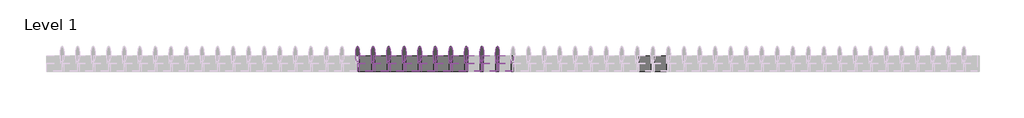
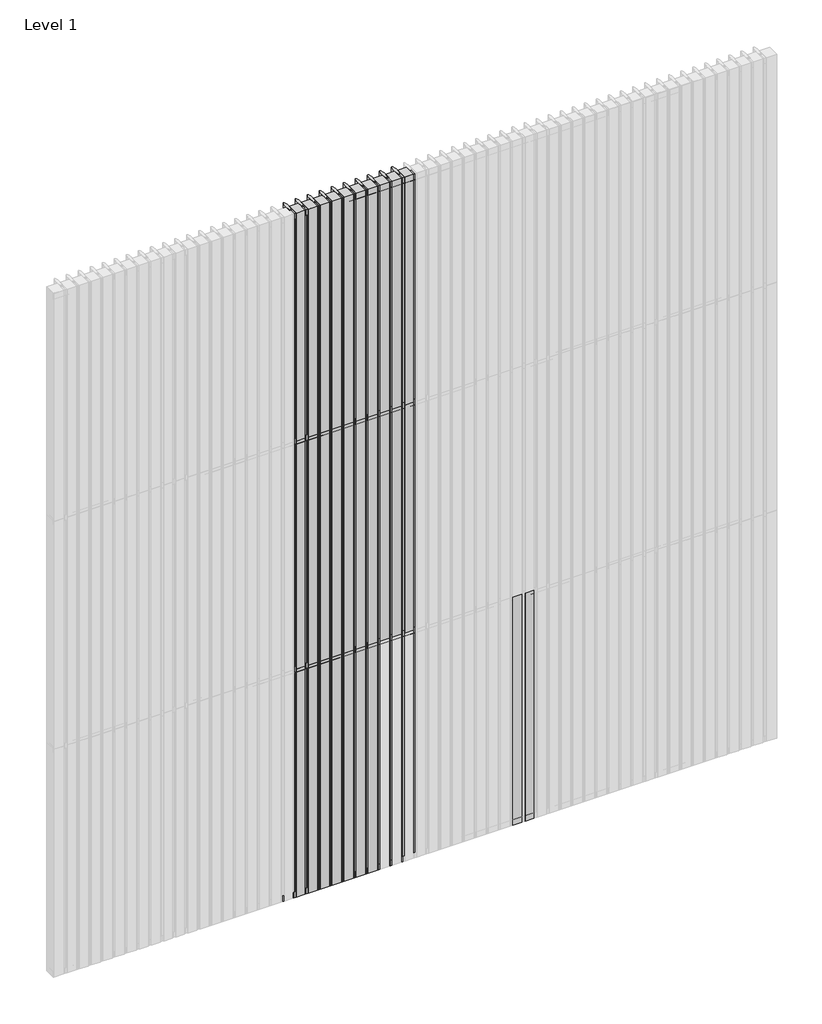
# One storey, part 3 of 6: 70 members, 59 plates.
"""IFC4 building model written with IfcOpenShell, lengths in millimetres."""

from ifc_helpers import new_model, si_unit, origin, place, context, project, spatial, transform, mapped, element, save
from components import rectangular_mullion_31e9810d, rectangular_mullion_cddbc660, rectangular_mullion_a3e25429, rectangular_mullion_ae434dd9, empty_system_panel_empty_de76a839, empty_system_panel_empty_5411477d, empty_system_panel_empty_c50988b4

model = new_model("IFC4")

# Units and contexts
model_context = context("Model", 3, world=origin())
ifc_project = project(units=[si_unit("LENGTHUNIT", "METRE", prefix="MILLI")], contexts=[model_context])

# Site, building, storey
site = spatial("IfcSite", under=ifc_project)
building = spatial("IfcBuilding", under=site)
storey = spatial("IfcBuildingStorey", under=building, Name="Level 1", Elevation=0.0)

# Members
placement = place(None, origin())
rectangular_mullion_shape = rectangular_mullion_31e9810d(model_context)
element("IfcMember", 1, ObjectType="Rectangular Mullion : RSen_21_CWM_blade - 100 ellips - 0°_gen_duco projects", at=placement, inside=storey, context=model_context, shape_type="MappedRepresentation", body=[
    mapped(rectangular_mullion_shape, transform((2900.0, 3000.0, 0.0), x_axis=(-1.0, 0.0, 0.0), y_axis=(0.0, 1.0, 0.0), z_axis=(0.0, 0.0, -1.0))),
])
element("IfcMember", 2, ObjectType="Rectangular Mullion : RSen_21_CWM_blade - 100 ellips - 0°_gen_duco projects", at=placement, inside=storey, context=model_context, shape_type="MappedRepresentation", body=[
    mapped(rectangular_mullion_shape, transform((2800.0, 3000.0, 0.0), x_axis=(-1.0, 0.0, 0.0), y_axis=(0.0, 1.0, 0.0), z_axis=(0.0, 0.0, -1.0))),
])
element("IfcMember", 3, ObjectType="Rectangular Mullion : RSen_21_CWM_blade - 100 ellips - 0°_gen_duco projects", at=placement, inside=storey, context=model_context, shape_type="MappedRepresentation", body=[
    mapped(rectangular_mullion_shape, transform((2700.0, 3000.0, 0.0), x_axis=(-1.0, 0.0, 0.0), y_axis=(0.0, 1.0, 0.0), z_axis=(0.0, 0.0, -1.0))),
])
element("IfcMember", 4, ObjectType="Rectangular Mullion : RSen_21_CWM_blade - 100 ellips - 0°_gen_duco projects", at=placement, inside=storey, context=model_context, shape_type="MappedRepresentation", body=[
    mapped(rectangular_mullion_shape, transform((2600.0, 3000.0, 0.0), x_axis=(-1.0, 0.0, 0.0), y_axis=(0.0, 1.0, 0.0), z_axis=(0.0, 0.0, -1.0))),
])
element("IfcMember", 5, ObjectType="Rectangular Mullion : RSen_21_CWM_blade - 100 ellips - 0°_gen_duco projects", at=placement, inside=storey, context=model_context, shape_type="MappedRepresentation", body=[
    mapped(rectangular_mullion_shape, transform((2500.0, 3000.0, 0.0), x_axis=(-1.0, 0.0, 0.0), y_axis=(0.0, 1.0, 0.0), z_axis=(0.0, 0.0, -1.0))),
])
element("IfcMember", 6, ObjectType="Rectangular Mullion : RSen_21_CWM_blade - 100 ellips - 0°_gen_duco projects", at=placement, inside=storey, context=model_context, shape_type="MappedRepresentation", body=[
    mapped(rectangular_mullion_shape, transform((2400.0, 3000.0, 0.0), x_axis=(-1.0, 0.0, 0.0), y_axis=(0.0, 1.0, 0.0), z_axis=(0.0, 0.0, -1.0))),
])
element("IfcMember", 7, ObjectType="Rectangular Mullion : RSen_21_CWM_blade - 100 ellips - 0°_gen_duco projects", at=placement, inside=storey, context=model_context, shape_type="MappedRepresentation", body=[
    mapped(rectangular_mullion_shape, transform((2300.0, 3000.0, 0.0), x_axis=(-1.0, 0.0, 0.0), y_axis=(0.0, 1.0, 0.0), z_axis=(0.0, 0.0, -1.0))),
])
element("IfcMember", 8, ObjectType="Rectangular Mullion : RSen_21_CWM_blade - 100 ellips - 0°_gen_duco projects", at=placement, inside=storey, context=model_context, shape_type="MappedRepresentation", body=[
    mapped(rectangular_mullion_shape, transform((2200.0, 3000.0, 0.0), x_axis=(-1.0, 0.0, 0.0), y_axis=(0.0, 1.0, 0.0), z_axis=(0.0, 0.0, -1.0))),
])
element("IfcMember", 9, ObjectType="Rectangular Mullion : RSen_21_CWM_blade - 100 ellips - 0°_gen_duco projects", at=placement, inside=storey, context=model_context, shape_type="MappedRepresentation", body=[
    mapped(rectangular_mullion_shape, transform((2100.0, 3000.0, 0.0), x_axis=(-1.0, 0.0, 0.0), y_axis=(0.0, 1.0, 0.0), z_axis=(0.0, 0.0, -1.0))),
])
element("IfcMember", 10, ObjectType="Rectangular Mullion : RSen_21_CWM_blade - 100 ellips - 0°_gen_duco projects", at=placement, inside=storey, context=model_context, shape_type="MappedRepresentation", body=[
    mapped(rectangular_mullion_shape, transform((2000.0, 3000.0, 0.0), x_axis=(-1.0, 0.0, 0.0), y_axis=(0.0, 1.0, 0.0), z_axis=(0.0, 0.0, -1.0))),
])
element("IfcMember", 11, ObjectType="Rectangular Mullion : RSen_21_CWM_blade - 100 ellips - 0°_gen_duco projects", at=placement, inside=storey, context=model_context, shape_type="MappedRepresentation", body=[
    mapped(rectangular_mullion_shape, transform((2900.0, 3000.0, 2000.0), x_axis=(-1.0, 0.0, 0.0), y_axis=(0.0, 1.0, 0.0), z_axis=(0.0, 0.0, -1.0))),
])
element("IfcMember", 12, ObjectType="Rectangular Mullion : RSen_21_CWM_blade - 100 ellips - 0°_gen_duco projects", at=placement, inside=storey, context=model_context, shape_type="MappedRepresentation", body=[
    mapped(rectangular_mullion_shape, transform((2800.0, 3000.0, 2000.0), x_axis=(-1.0, 0.0, 0.0), y_axis=(0.0, 1.0, 0.0), z_axis=(0.0, 0.0, -1.0))),
])
element("IfcMember", 13, ObjectType="Rectangular Mullion : RSen_21_CWM_blade - 100 ellips - 0°_gen_duco projects", at=placement, inside=storey, context=model_context, shape_type="MappedRepresentation", body=[
    mapped(rectangular_mullion_shape, transform((2700.0, 3000.0, 2000.0), x_axis=(-1.0, 0.0, 0.0), y_axis=(0.0, 1.0, 0.0), z_axis=(0.0, 0.0, -1.0))),
])
element("IfcMember", 14, ObjectType="Rectangular Mullion : RSen_21_CWM_blade - 100 ellips - 0°_gen_duco projects", at=placement, inside=storey, context=model_context, shape_type="MappedRepresentation", body=[
    mapped(rectangular_mullion_shape, transform((2600.0, 3000.0, 2000.0), x_axis=(-1.0, 0.0, 0.0), y_axis=(0.0, 1.0, 0.0), z_axis=(0.0, 0.0, -1.0))),
])
element("IfcMember", 15, ObjectType="Rectangular Mullion : RSen_21_CWM_blade - 100 ellips - 0°_gen_duco projects", at=placement, inside=storey, context=model_context, shape_type="MappedRepresentation", body=[
    mapped(rectangular_mullion_shape, transform((2500.0, 3000.0, 2000.0), x_axis=(-1.0, 0.0, 0.0), y_axis=(0.0, 1.0, 0.0), z_axis=(0.0, 0.0, -1.0))),
])
element("IfcMember", 16, ObjectType="Rectangular Mullion : RSen_21_CWM_blade - 100 ellips - 0°_gen_duco projects", at=placement, inside=storey, context=model_context, shape_type="MappedRepresentation", body=[
    mapped(rectangular_mullion_shape, transform((2400.0, 3000.0, 2000.0), x_axis=(-1.0, 0.0, 0.0), y_axis=(0.0, 1.0, 0.0), z_axis=(0.0, 0.0, -1.0))),
])
element("IfcMember", 17, ObjectType="Rectangular Mullion : RSen_21_CWM_blade - 100 ellips - 0°_gen_duco projects", at=placement, inside=storey, context=model_context, shape_type="MappedRepresentation", body=[
    mapped(rectangular_mullion_shape, transform((2300.0, 3000.0, 2000.0), x_axis=(-1.0, 0.0, 0.0), y_axis=(0.0, 1.0, 0.0), z_axis=(0.0, 0.0, -1.0))),
])
element("IfcMember", 18, ObjectType="Rectangular Mullion : RSen_21_CWM_blade - 100 ellips - 0°_gen_duco projects", at=placement, inside=storey, context=model_context, shape_type="MappedRepresentation", body=[
    mapped(rectangular_mullion_shape, transform((2200.0, 3000.0, 2000.0), x_axis=(-1.0, 0.0, 0.0), y_axis=(0.0, 1.0, 0.0), z_axis=(0.0, 0.0, -1.0))),
])
element("IfcMember", 19, ObjectType="Rectangular Mullion : RSen_21_CWM_blade - 100 ellips - 0°_gen_duco projects", at=placement, inside=storey, context=model_context, shape_type="MappedRepresentation", body=[
    mapped(rectangular_mullion_shape, transform((2100.0, 3000.0, 2000.0), x_axis=(-1.0, 0.0, 0.0), y_axis=(0.0, 1.0, 0.0), z_axis=(0.0, 0.0, -1.0))),
])
element("IfcMember", 20, ObjectType="Rectangular Mullion : RSen_21_CWM_blade - 100 ellips - 0°_gen_duco projects", at=placement, inside=storey, context=model_context, shape_type="MappedRepresentation", body=[
    mapped(rectangular_mullion_shape, transform((2000.0, 3000.0, 2000.0), x_axis=(-1.0, 0.0, 0.0), y_axis=(0.0, 1.0, 0.0), z_axis=(0.0, 0.0, -1.0))),
])
element("IfcMember", 21, ObjectType="Rectangular Mullion : RSen_21_CWM_blade - 100 ellips - 0°_gen_duco projects", at=placement, inside=storey, context=model_context, shape_type="MappedRepresentation", body=[
    mapped(rectangular_mullion_shape, transform((2900.0, 3000.0, 4000.0), x_axis=(-1.0, 0.0, 0.0), y_axis=(0.0, 1.0, 0.0), z_axis=(0.0, 0.0, -1.0))),
])
element("IfcMember", 22, ObjectType="Rectangular Mullion : RSen_21_CWM_blade - 100 ellips - 0°_gen_duco projects", at=placement, inside=storey, context=model_context, shape_type="MappedRepresentation", body=[
    mapped(rectangular_mullion_shape, transform((2800.0, 3000.0, 4000.0), x_axis=(-1.0, 0.0, 0.0), y_axis=(0.0, 1.0, 0.0), z_axis=(0.0, 0.0, -1.0))),
])
element("IfcMember", 23, ObjectType="Rectangular Mullion : RSen_21_CWM_blade - 100 ellips - 0°_gen_duco projects", at=placement, inside=storey, context=model_context, shape_type="MappedRepresentation", body=[
    mapped(rectangular_mullion_shape, transform((2700.0, 3000.0, 4000.0), x_axis=(-1.0, 0.0, 0.0), y_axis=(0.0, 1.0, 0.0), z_axis=(0.0, 0.0, -1.0))),
])
element("IfcMember", 24, ObjectType="Rectangular Mullion : RSen_21_CWM_blade - 100 ellips - 0°_gen_duco projects", at=placement, inside=storey, context=model_context, shape_type="MappedRepresentation", body=[
    mapped(rectangular_mullion_shape, transform((2600.0, 3000.0, 4000.0), x_axis=(-1.0, 0.0, 0.0), y_axis=(0.0, 1.0, 0.0), z_axis=(0.0, 0.0, -1.0))),
])
element("IfcMember", 25, ObjectType="Rectangular Mullion : RSen_21_CWM_blade - 100 ellips - 0°_gen_duco projects", at=placement, inside=storey, context=model_context, shape_type="MappedRepresentation", body=[
    mapped(rectangular_mullion_shape, transform((2500.0, 3000.0, 4000.0), x_axis=(-1.0, 0.0, 0.0), y_axis=(0.0, 1.0, 0.0), z_axis=(0.0, 0.0, -1.0))),
])
element("IfcMember", 26, ObjectType="Rectangular Mullion : RSen_21_CWM_blade - 100 ellips - 0°_gen_duco projects", at=placement, inside=storey, context=model_context, shape_type="MappedRepresentation", body=[
    mapped(rectangular_mullion_shape, transform((2400.0, 3000.0, 4000.0), x_axis=(-1.0, 0.0, 0.0), y_axis=(0.0, 1.0, 0.0), z_axis=(0.0, 0.0, -1.0))),
])
element("IfcMember", 27, ObjectType="Rectangular Mullion : RSen_21_CWM_blade - 100 ellips - 0°_gen_duco projects", at=placement, inside=storey, context=model_context, shape_type="MappedRepresentation", body=[
    mapped(rectangular_mullion_shape, transform((2300.0, 3000.0, 4000.0), x_axis=(-1.0, 0.0, 0.0), y_axis=(0.0, 1.0, 0.0), z_axis=(0.0, 0.0, -1.0))),
])
element("IfcMember", 28, ObjectType="Rectangular Mullion : RSen_21_CWM_blade - 100 ellips - 0°_gen_duco projects", at=placement, inside=storey, context=model_context, shape_type="MappedRepresentation", body=[
    mapped(rectangular_mullion_shape, transform((2200.0, 3000.0, 4000.0), x_axis=(-1.0, 0.0, 0.0), y_axis=(0.0, 1.0, 0.0), z_axis=(0.0, 0.0, -1.0))),
])
element("IfcMember", 29, ObjectType="Rectangular Mullion : RSen_21_CWM_blade - 100 ellips - 0°_gen_duco projects", at=placement, inside=storey, context=model_context, shape_type="MappedRepresentation", body=[
    mapped(rectangular_mullion_shape, transform((2100.0, 3000.0, 4000.0), x_axis=(-1.0, 0.0, 0.0), y_axis=(0.0, 1.0, 0.0), z_axis=(0.0, 0.0, -1.0))),
])
element("IfcMember", 30, ObjectType="Rectangular Mullion : RSen_21_CWM_blade - 100 ellips - 0°_gen_duco projects", at=placement, inside=storey, context=model_context, shape_type="MappedRepresentation", body=[
    mapped(rectangular_mullion_shape, transform((2000.0, 3000.0, 4000.0), x_axis=(-1.0, 0.0, 0.0), y_axis=(0.0, 1.0, 0.0), z_axis=(0.0, 0.0, -1.0))),
])
rectangular_mullion_2_shape = rectangular_mullion_cddbc660(model_context)
element("IfcMember", 31, ObjectType="Rectangular Mullion : RSen_21_CWM_support profile 50x50 - left_gen_duco projects", at=placement, inside=storey, context=model_context, shape_type="MappedRepresentation", body=[
    mapped(rectangular_mullion_2_shape, transform((2900.0, 3000.0, 6000.0), x_axis=(0.0, 0.0, 1.0), y_axis=(0.0, 1.0, 0.0), z_axis=(-1.0, 0.0, 0.0))),
])
element("IfcMember", 32, ObjectType="Rectangular Mullion : RSen_21_CWM_support profile 50x50 - left_gen_duco projects", at=placement, inside=storey, context=model_context, shape_type="MappedRepresentation", body=[
    mapped(rectangular_mullion_2_shape, transform((2800.0, 3000.0, 6000.0), x_axis=(0.0, 0.0, 1.0), y_axis=(0.0, 1.0, 0.0), z_axis=(-1.0, 0.0, 0.0))),
])
element("IfcMember", 33, ObjectType="Rectangular Mullion : RSen_21_CWM_support profile 50x50 - left_gen_duco projects", at=placement, inside=storey, context=model_context, shape_type="MappedRepresentation", body=[
    mapped(rectangular_mullion_2_shape, transform((2700.0, 3000.0, 6000.0), x_axis=(0.0, 0.0, 1.0), y_axis=(0.0, 1.0, 0.0), z_axis=(-1.0, 0.0, 0.0))),
])
element("IfcMember", 34, ObjectType="Rectangular Mullion : RSen_21_CWM_support profile 50x50 - left_gen_duco projects", at=placement, inside=storey, context=model_context, shape_type="MappedRepresentation", body=[
    mapped(rectangular_mullion_2_shape, transform((2600.0, 3000.0, 6000.0), x_axis=(0.0, 0.0, 1.0), y_axis=(0.0, 1.0, 0.0), z_axis=(-1.0, 0.0, 0.0))),
])
element("IfcMember", 35, ObjectType="Rectangular Mullion : RSen_21_CWM_support profile 50x50 - left_gen_duco projects", at=placement, inside=storey, context=model_context, shape_type="MappedRepresentation", body=[
    mapped(rectangular_mullion_2_shape, transform((2500.0, 3000.0, 6000.0), x_axis=(0.0, 0.0, 1.0), y_axis=(0.0, 1.0, 0.0), z_axis=(-1.0, 0.0, 0.0))),
])
element("IfcMember", 36, ObjectType="Rectangular Mullion : RSen_21_CWM_support profile 50x50 - left_gen_duco projects", at=placement, inside=storey, context=model_context, shape_type="MappedRepresentation", body=[
    mapped(rectangular_mullion_2_shape, transform((2400.0, 3000.0, 6000.0), x_axis=(0.0, 0.0, 1.0), y_axis=(0.0, 1.0, 0.0), z_axis=(-1.0, 0.0, 0.0))),
])
element("IfcMember", 37, ObjectType="Rectangular Mullion : RSen_21_CWM_support profile 50x50 - left_gen_duco projects", at=placement, inside=storey, context=model_context, shape_type="MappedRepresentation", body=[
    mapped(rectangular_mullion_2_shape, transform((2300.0, 3000.0, 6000.0), x_axis=(0.0, 0.0, 1.0), y_axis=(0.0, 1.0, 0.0), z_axis=(-1.0, 0.0, 0.0))),
])
element("IfcMember", 38, ObjectType="Rectangular Mullion : RSen_21_CWM_support profile 50x50 - left_gen_duco projects", at=placement, inside=storey, context=model_context, shape_type="MappedRepresentation", body=[
    mapped(rectangular_mullion_2_shape, transform((2200.0, 3000.0, 6000.0), x_axis=(0.0, 0.0, 1.0), y_axis=(0.0, 1.0, 0.0), z_axis=(-1.0, 0.0, 0.0))),
])
element("IfcMember", 39, ObjectType="Rectangular Mullion : RSen_21_CWM_support profile 50x50 - left_gen_duco projects", at=placement, inside=storey, context=model_context, shape_type="MappedRepresentation", body=[
    mapped(rectangular_mullion_2_shape, transform((2100.0, 3000.0, 6000.0), x_axis=(0.0, 0.0, 1.0), y_axis=(0.0, 1.0, 0.0), z_axis=(-1.0, 0.0, 0.0))),
])
element("IfcMember", 40, ObjectType="Rectangular Mullion : RSen_21_CWM_support profile 50x50 - left_gen_duco projects", at=placement, inside=storey, context=model_context, shape_type="MappedRepresentation", body=[
    mapped(rectangular_mullion_2_shape, transform((2000.0, 3000.0, 6000.0), x_axis=(0.0, 0.0, 1.0), y_axis=(0.0, 1.0, 0.0), z_axis=(-1.0, 0.0, 0.0))),
])
rectangular_mullion_3_shape = rectangular_mullion_a3e25429(model_context)
element("IfcMember", 41, ObjectType="Rectangular Mullion : RSen_21_CWM_support profile 50x50 - right_gen_duco projects", at=placement, inside=storey, context=model_context, shape_type="MappedRepresentation", body=[
    mapped(rectangular_mullion_3_shape, transform((2900.0, 3000.0, 0.0), x_axis=(0.0, 0.0, -1.0), y_axis=(0.0, 1.0, 0.0), z_axis=(1.0, 0.0, 0.0))),
])
element("IfcMember", 42, ObjectType="Rectangular Mullion : RSen_21_CWM_support profile 50x50 - right_gen_duco projects", at=placement, inside=storey, context=model_context, shape_type="MappedRepresentation", body=[
    mapped(rectangular_mullion_3_shape, transform((2800.0, 3000.0, 0.0), x_axis=(0.0, 0.0, -1.0), y_axis=(0.0, 1.0, 0.0), z_axis=(1.0, 0.0, 0.0))),
])
element("IfcMember", 43, ObjectType="Rectangular Mullion : RSen_21_CWM_support profile 50x50 - right_gen_duco projects", at=placement, inside=storey, context=model_context, shape_type="MappedRepresentation", body=[
    mapped(rectangular_mullion_3_shape, transform((2700.0, 3000.0, 0.0), x_axis=(0.0, 0.0, -1.0), y_axis=(0.0, 1.0, 0.0), z_axis=(1.0, 0.0, 0.0))),
])
element("IfcMember", 44, ObjectType="Rectangular Mullion : RSen_21_CWM_support profile 50x50 - right_gen_duco projects", at=placement, inside=storey, context=model_context, shape_type="MappedRepresentation", body=[
    mapped(rectangular_mullion_3_shape, transform((2600.0, 3000.0, 0.0), x_axis=(0.0, 0.0, -1.0), y_axis=(0.0, 1.0, 0.0), z_axis=(1.0, 0.0, 0.0))),
])
element("IfcMember", 45, ObjectType="Rectangular Mullion : RSen_21_CWM_support profile 50x50 - right_gen_duco projects", at=placement, inside=storey, context=model_context, shape_type="MappedRepresentation", body=[
    mapped(rectangular_mullion_3_shape, transform((2500.0, 3000.0, 0.0), x_axis=(0.0, 0.0, -1.0), y_axis=(0.0, 1.0, 0.0), z_axis=(1.0, 0.0, 0.0))),
])
element("IfcMember", 46, ObjectType="Rectangular Mullion : RSen_21_CWM_support profile 50x50 - right_gen_duco projects", at=placement, inside=storey, context=model_context, shape_type="MappedRepresentation", body=[
    mapped(rectangular_mullion_3_shape, transform((2400.0, 3000.0, 0.0), x_axis=(0.0, 0.0, -1.0), y_axis=(0.0, 1.0, 0.0), z_axis=(1.0, 0.0, 0.0))),
])
element("IfcMember", 47, ObjectType="Rectangular Mullion : RSen_21_CWM_support profile 50x50 - right_gen_duco projects", at=placement, inside=storey, context=model_context, shape_type="MappedRepresentation", body=[
    mapped(rectangular_mullion_3_shape, transform((2300.0, 3000.0, 0.0), x_axis=(0.0, 0.0, -1.0), y_axis=(0.0, 1.0, 0.0), z_axis=(1.0, 0.0, 0.0))),
])
element("IfcMember", 48, ObjectType="Rectangular Mullion : RSen_21_CWM_support profile 50x50 - right_gen_duco projects", at=placement, inside=storey, context=model_context, shape_type="MappedRepresentation", body=[
    mapped(rectangular_mullion_3_shape, transform((2200.0, 3000.0, 0.0), x_axis=(0.0, 0.0, -1.0), y_axis=(0.0, 1.0, 0.0), z_axis=(1.0, 0.0, 0.0))),
])
element("IfcMember", 49, ObjectType="Rectangular Mullion : RSen_21_CWM_support profile 50x50 - right_gen_duco projects", at=placement, inside=storey, context=model_context, shape_type="MappedRepresentation", body=[
    mapped(rectangular_mullion_3_shape, transform((2100.0, 3000.0, 0.0), x_axis=(0.0, 0.0, -1.0), y_axis=(0.0, 1.0, 0.0), z_axis=(1.0, 0.0, 0.0))),
])
element("IfcMember", 50, ObjectType="Rectangular Mullion : RSen_21_CWM_support profile 50x50 - right_gen_duco projects", at=placement, inside=storey, context=model_context, shape_type="MappedRepresentation", body=[
    mapped(rectangular_mullion_3_shape, transform((2000.0, 3000.0, 0.0), x_axis=(0.0, 0.0, -1.0), y_axis=(0.0, 1.0, 0.0), z_axis=(1.0, 0.0, 0.0))),
])
rectangular_mullion_4_shape = rectangular_mullion_ae434dd9(model_context)
element("IfcMember", 51, ObjectType="Rectangular Mullion : RSen_21_CWM_support profile 50x50_gen_duco projects", at=placement, inside=storey, context=model_context, shape_type="MappedRepresentation", body=[
    mapped(rectangular_mullion_4_shape, transform((2900.0, 3000.0, 2000.0), x_axis=(0.0, 0.0, 1.0), y_axis=(0.0, 1.0, 0.0), z_axis=(-1.0, 0.0, 0.0))),
])
element("IfcMember", 52, ObjectType="Rectangular Mullion : RSen_21_CWM_support profile 50x50_gen_duco projects", at=placement, inside=storey, context=model_context, shape_type="MappedRepresentation", body=[
    mapped(rectangular_mullion_4_shape, transform((2800.0, 3000.0, 2000.0), x_axis=(0.0, 0.0, 1.0), y_axis=(0.0, 1.0, 0.0), z_axis=(-1.0, 0.0, 0.0))),
])
element("IfcMember", 53, ObjectType="Rectangular Mullion : RSen_21_CWM_support profile 50x50_gen_duco projects", at=placement, inside=storey, context=model_context, shape_type="MappedRepresentation", body=[
    mapped(rectangular_mullion_4_shape, transform((2700.0, 3000.0, 2000.0), x_axis=(0.0, 0.0, 1.0), y_axis=(0.0, 1.0, 0.0), z_axis=(-1.0, 0.0, 0.0))),
])
element("IfcMember", 54, ObjectType="Rectangular Mullion : RSen_21_CWM_support profile 50x50_gen_duco projects", at=placement, inside=storey, context=model_context, shape_type="MappedRepresentation", body=[
    mapped(rectangular_mullion_4_shape, transform((2600.0, 3000.0, 2000.0), x_axis=(0.0, 0.0, 1.0), y_axis=(0.0, 1.0, 0.0), z_axis=(-1.0, 0.0, 0.0))),
])
element("IfcMember", 55, ObjectType="Rectangular Mullion : RSen_21_CWM_support profile 50x50_gen_duco projects", at=placement, inside=storey, context=model_context, shape_type="MappedRepresentation", body=[
    mapped(rectangular_mullion_4_shape, transform((2500.0, 3000.0, 2000.0), x_axis=(0.0, 0.0, 1.0), y_axis=(0.0, 1.0, 0.0), z_axis=(-1.0, 0.0, 0.0))),
])
element("IfcMember", 56, ObjectType="Rectangular Mullion : RSen_21_CWM_support profile 50x50_gen_duco projects", at=placement, inside=storey, context=model_context, shape_type="MappedRepresentation", body=[
    mapped(rectangular_mullion_4_shape, transform((2400.0, 3000.0, 2000.0), x_axis=(0.0, 0.0, 1.0), y_axis=(0.0, 1.0, 0.0), z_axis=(-1.0, 0.0, 0.0))),
])
element("IfcMember", 57, ObjectType="Rectangular Mullion : RSen_21_CWM_support profile 50x50_gen_duco projects", at=placement, inside=storey, context=model_context, shape_type="MappedRepresentation", body=[
    mapped(rectangular_mullion_4_shape, transform((2300.0, 3000.0, 2000.0), x_axis=(0.0, 0.0, 1.0), y_axis=(0.0, 1.0, 0.0), z_axis=(-1.0, 0.0, 0.0))),
])
element("IfcMember", 58, ObjectType="Rectangular Mullion : RSen_21_CWM_support profile 50x50_gen_duco projects", at=placement, inside=storey, context=model_context, shape_type="MappedRepresentation", body=[
    mapped(rectangular_mullion_4_shape, transform((2200.0, 3000.0, 2000.0), x_axis=(0.0, 0.0, 1.0), y_axis=(0.0, 1.0, 0.0), z_axis=(-1.0, 0.0, 0.0))),
])
element("IfcMember", 59, ObjectType="Rectangular Mullion : RSen_21_CWM_support profile 50x50_gen_duco projects", at=placement, inside=storey, context=model_context, shape_type="MappedRepresentation", body=[
    mapped(rectangular_mullion_4_shape, transform((2100.0, 3000.0, 2000.0), x_axis=(0.0, 0.0, 1.0), y_axis=(0.0, 1.0, 0.0), z_axis=(-1.0, 0.0, 0.0))),
])
element("IfcMember", 60, ObjectType="Rectangular Mullion : RSen_21_CWM_support profile 50x50_gen_duco projects", at=placement, inside=storey, context=model_context, shape_type="MappedRepresentation", body=[
    mapped(rectangular_mullion_4_shape, transform((2000.0, 3000.0, 2000.0), x_axis=(0.0, 0.0, 1.0), y_axis=(0.0, 1.0, 0.0), z_axis=(-1.0, 0.0, 0.0))),
])
element("IfcMember", 61, ObjectType="Rectangular Mullion : RSen_21_CWM_support profile 50x50_gen_duco projects", at=placement, inside=storey, context=model_context, shape_type="MappedRepresentation", body=[
    mapped(rectangular_mullion_4_shape, transform((2900.0, 3000.0, 4000.0), x_axis=(0.0, 0.0, 1.0), y_axis=(0.0, 1.0, 0.0), z_axis=(-1.0, 0.0, 0.0))),
])
element("IfcMember", 62, ObjectType="Rectangular Mullion : RSen_21_CWM_support profile 50x50_gen_duco projects", at=placement, inside=storey, context=model_context, shape_type="MappedRepresentation", body=[
    mapped(rectangular_mullion_4_shape, transform((2800.0, 3000.0, 4000.0), x_axis=(0.0, 0.0, 1.0), y_axis=(0.0, 1.0, 0.0), z_axis=(-1.0, 0.0, 0.0))),
])
element("IfcMember", 63, ObjectType="Rectangular Mullion : RSen_21_CWM_support profile 50x50_gen_duco projects", at=placement, inside=storey, context=model_context, shape_type="MappedRepresentation", body=[
    mapped(rectangular_mullion_4_shape, transform((2700.0, 3000.0, 4000.0), x_axis=(0.0, 0.0, 1.0), y_axis=(0.0, 1.0, 0.0), z_axis=(-1.0, 0.0, 0.0))),
])
element("IfcMember", 64, ObjectType="Rectangular Mullion : RSen_21_CWM_support profile 50x50_gen_duco projects", at=placement, inside=storey, context=model_context, shape_type="MappedRepresentation", body=[
    mapped(rectangular_mullion_4_shape, transform((2600.0, 3000.0, 4000.0), x_axis=(0.0, 0.0, 1.0), y_axis=(0.0, 1.0, 0.0), z_axis=(-1.0, 0.0, 0.0))),
])
element("IfcMember", 65, ObjectType="Rectangular Mullion : RSen_21_CWM_support profile 50x50_gen_duco projects", at=placement, inside=storey, context=model_context, shape_type="MappedRepresentation", body=[
    mapped(rectangular_mullion_4_shape, transform((2500.0, 3000.0, 4000.0), x_axis=(0.0, 0.0, 1.0), y_axis=(0.0, 1.0, 0.0), z_axis=(-1.0, 0.0, 0.0))),
])
element("IfcMember", 66, ObjectType="Rectangular Mullion : RSen_21_CWM_support profile 50x50_gen_duco projects", at=placement, inside=storey, context=model_context, shape_type="MappedRepresentation", body=[
    mapped(rectangular_mullion_4_shape, transform((2400.0, 3000.0, 4000.0), x_axis=(0.0, 0.0, 1.0), y_axis=(0.0, 1.0, 0.0), z_axis=(-1.0, 0.0, 0.0))),
])
element("IfcMember", 67, ObjectType="Rectangular Mullion : RSen_21_CWM_support profile 50x50_gen_duco projects", at=placement, inside=storey, context=model_context, shape_type="MappedRepresentation", body=[
    mapped(rectangular_mullion_4_shape, transform((2300.0, 3000.0, 4000.0), x_axis=(0.0, 0.0, 1.0), y_axis=(0.0, 1.0, 0.0), z_axis=(-1.0, 0.0, 0.0))),
])
element("IfcMember", 68, ObjectType="Rectangular Mullion : RSen_21_CWM_support profile 50x50_gen_duco projects", at=placement, inside=storey, context=model_context, shape_type="MappedRepresentation", body=[
    mapped(rectangular_mullion_4_shape, transform((2200.0, 3000.0, 4000.0), x_axis=(0.0, 0.0, 1.0), y_axis=(0.0, 1.0, 0.0), z_axis=(-1.0, 0.0, 0.0))),
])
element("IfcMember", 69, ObjectType="Rectangular Mullion : RSen_21_CWM_support profile 50x50_gen_duco projects", at=placement, inside=storey, context=model_context, shape_type="MappedRepresentation", body=[
    mapped(rectangular_mullion_4_shape, transform((2100.0, 3000.0, 4000.0), x_axis=(0.0, 0.0, 1.0), y_axis=(0.0, 1.0, 0.0), z_axis=(-1.0, 0.0, 0.0))),
])
element("IfcMember", 70, ObjectType="Rectangular Mullion : RSen_21_CWM_support profile 50x50_gen_duco projects", at=placement, inside=storey, context=model_context, shape_type="MappedRepresentation", body=[
    mapped(rectangular_mullion_4_shape, transform((2000.0, 3000.0, 4000.0), x_axis=(0.0, 0.0, 1.0), y_axis=(0.0, 1.0, 0.0), z_axis=(-1.0, 0.0, 0.0))),
])

# Plates
empty_system_panel_empty_shape = empty_system_panel_empty_de76a839(model_context)
element("IfcPlate", 71, ObjectType="Empty System Panel : Empty", at=placement, inside=storey, context=model_context, shape_type="MappedRepresentation", body=[
    mapped(empty_system_panel_empty_shape, transform((3950.0, 3000.0, 0.0), x_axis=(-1.0, 0.0, 0.0), y_axis=(0.0, -1.0, 0.0), z_axis=(0.0, 0.0, 1.0))),
])
element("IfcPlate", 72, ObjectType="Empty System Panel : Empty", at=placement, inside=storey, context=model_context, shape_type="MappedRepresentation", body=[
    mapped(empty_system_panel_empty_shape, transform((3850.0, 3000.0, 0.0), x_axis=(-1.0, 0.0, 0.0), y_axis=(0.0, -1.0, 0.0), z_axis=(0.0, 0.0, 1.0))),
])
element("IfcPlate", 73, ObjectType="Empty System Panel : Empty", at=placement, inside=storey, context=model_context, shape_type="MappedRepresentation", body=[
    mapped(empty_system_panel_empty_shape, transform((2650.0, 3000.0, 0.0), x_axis=(-1.0, 0.0, 0.0), y_axis=(0.0, -1.0, 0.0), z_axis=(0.0, 0.0, 1.0))),
])
element("IfcPlate", 74, ObjectType="Empty System Panel : Empty", at=placement, inside=storey, context=model_context, shape_type="MappedRepresentation", body=[
    mapped(empty_system_panel_empty_shape, transform((2550.0, 3000.0, 0.0), x_axis=(-1.0, 0.0, 0.0), y_axis=(0.0, -1.0, 0.0), z_axis=(0.0, 0.0, 1.0))),
])
element("IfcPlate", 75, ObjectType="Empty System Panel : Empty", at=placement, inside=storey, context=model_context, shape_type="MappedRepresentation", body=[
    mapped(empty_system_panel_empty_shape, transform((2450.0, 3000.0, 0.0), x_axis=(-1.0, 0.0, 0.0), y_axis=(0.0, -1.0, 0.0), z_axis=(0.0, 0.0, 1.0))),
])
element("IfcPlate", 76, ObjectType="Empty System Panel : Empty", at=placement, inside=storey, context=model_context, shape_type="MappedRepresentation", body=[
    mapped(empty_system_panel_empty_shape, transform((2350.0, 3000.0, 0.0), x_axis=(-1.0, 0.0, 0.0), y_axis=(0.0, -1.0, 0.0), z_axis=(0.0, 0.0, 1.0))),
])
element("IfcPlate", 77, ObjectType="Empty System Panel : Empty", at=placement, inside=storey, context=model_context, shape_type="MappedRepresentation", body=[
    mapped(empty_system_panel_empty_shape, transform((2250.0, 3000.0, 0.0), x_axis=(-1.0, 0.0, 0.0), y_axis=(0.0, -1.0, 0.0), z_axis=(0.0, 0.0, 1.0))),
])
element("IfcPlate", 78, ObjectType="Empty System Panel : Empty", at=placement, inside=storey, context=model_context, shape_type="MappedRepresentation", body=[
    mapped(empty_system_panel_empty_shape, transform((2150.0, 3000.0, 0.0), x_axis=(-1.0, 0.0, 0.0), y_axis=(0.0, -1.0, 0.0), z_axis=(0.0, 0.0, 1.0))),
])
element("IfcPlate", 79, ObjectType="Empty System Panel : Empty", at=placement, inside=storey, context=model_context, shape_type="MappedRepresentation", body=[
    mapped(empty_system_panel_empty_shape, transform((2050.0, 3000.0, 0.0), x_axis=(-1.0, 0.0, 0.0), y_axis=(0.0, -1.0, 0.0), z_axis=(0.0, 0.0, 1.0))),
])
element("IfcPlate", 80, ObjectType="Empty System Panel : Empty", at=placement, inside=storey, context=model_context, shape_type="MappedRepresentation", body=[
    mapped(empty_system_panel_empty_shape, transform((2950.0, 3000.0, 2000.0), x_axis=(-1.0, 0.0, 0.0), y_axis=(0.0, -1.0, 0.0), z_axis=(0.0, 0.0, 1.0))),
])
element("IfcPlate", 81, ObjectType="Empty System Panel : Empty", at=placement, inside=storey, context=model_context, shape_type="MappedRepresentation", body=[
    mapped(empty_system_panel_empty_shape, transform((2850.0, 3000.0, 2000.0), x_axis=(-1.0, 0.0, 0.0), y_axis=(0.0, -1.0, 0.0), z_axis=(0.0, 0.0, 1.0))),
])
element("IfcPlate", 82, ObjectType="Empty System Panel : Empty", at=placement, inside=storey, context=model_context, shape_type="MappedRepresentation", body=[
    mapped(empty_system_panel_empty_shape, transform((2750.0, 3000.0, 2000.0), x_axis=(-1.0, 0.0, 0.0), y_axis=(0.0, -1.0, 0.0), z_axis=(0.0, 0.0, 1.0))),
])
element("IfcPlate", 83, ObjectType="Empty System Panel : Empty", at=placement, inside=storey, context=model_context, shape_type="MappedRepresentation", body=[
    mapped(empty_system_panel_empty_shape, transform((2650.0, 3000.0, 2000.0), x_axis=(-1.0, 0.0, 0.0), y_axis=(0.0, -1.0, 0.0), z_axis=(0.0, 0.0, 1.0))),
])
element("IfcPlate", 84, ObjectType="Empty System Panel : Empty", at=placement, inside=storey, context=model_context, shape_type="MappedRepresentation", body=[
    mapped(empty_system_panel_empty_shape, transform((2550.0, 3000.0, 2000.0), x_axis=(-1.0, 0.0, 0.0), y_axis=(0.0, -1.0, 0.0), z_axis=(0.0, 0.0, 1.0))),
])
element("IfcPlate", 85, ObjectType="Empty System Panel : Empty", at=placement, inside=storey, context=model_context, shape_type="MappedRepresentation", body=[
    mapped(empty_system_panel_empty_shape, transform((2450.0, 3000.0, 2000.0), x_axis=(-1.0, 0.0, 0.0), y_axis=(0.0, -1.0, 0.0), z_axis=(0.0, 0.0, 1.0))),
])
element("IfcPlate", 86, ObjectType="Empty System Panel : Empty", at=placement, inside=storey, context=model_context, shape_type="MappedRepresentation", body=[
    mapped(empty_system_panel_empty_shape, transform((2350.0, 3000.0, 2000.0), x_axis=(-1.0, 0.0, 0.0), y_axis=(0.0, -1.0, 0.0), z_axis=(0.0, 0.0, 1.0))),
])
element("IfcPlate", 87, ObjectType="Empty System Panel : Empty", at=placement, inside=storey, context=model_context, shape_type="MappedRepresentation", body=[
    mapped(empty_system_panel_empty_shape, transform((2250.0, 3000.0, 2000.0), x_axis=(-1.0, 0.0, 0.0), y_axis=(0.0, -1.0, 0.0), z_axis=(0.0, 0.0, 1.0))),
])
element("IfcPlate", 88, ObjectType="Empty System Panel : Empty", at=placement, inside=storey, context=model_context, shape_type="MappedRepresentation", body=[
    mapped(empty_system_panel_empty_shape, transform((2150.0, 3000.0, 2000.0), x_axis=(-1.0, 0.0, 0.0), y_axis=(0.0, -1.0, 0.0), z_axis=(0.0, 0.0, 1.0))),
])
element("IfcPlate", 89, ObjectType="Empty System Panel : Empty", at=placement, inside=storey, context=model_context, shape_type="MappedRepresentation", body=[
    mapped(empty_system_panel_empty_shape, transform((2050.0, 3000.0, 2000.0), x_axis=(-1.0, 0.0, 0.0), y_axis=(0.0, -1.0, 0.0), z_axis=(0.0, 0.0, 1.0))),
])
element("IfcPlate", 90, ObjectType="Empty System Panel : Empty", at=placement, inside=storey, context=model_context, shape_type="MappedRepresentation", body=[
    mapped(empty_system_panel_empty_shape, transform((2950.0, 3000.0, 4000.0), x_axis=(-1.0, 0.0, 0.0), y_axis=(0.0, -1.0, 0.0), z_axis=(0.0, 0.0, 1.0))),
])
element("IfcPlate", 91, ObjectType="Empty System Panel : Empty", at=placement, inside=storey, context=model_context, shape_type="MappedRepresentation", body=[
    mapped(empty_system_panel_empty_shape, transform((2850.0, 3000.0, 4000.0), x_axis=(-1.0, 0.0, 0.0), y_axis=(0.0, -1.0, 0.0), z_axis=(0.0, 0.0, 1.0))),
])
element("IfcPlate", 92, ObjectType="Empty System Panel : Empty", at=placement, inside=storey, context=model_context, shape_type="MappedRepresentation", body=[
    mapped(empty_system_panel_empty_shape, transform((2750.0, 3000.0, 4000.0), x_axis=(-1.0, 0.0, 0.0), y_axis=(0.0, -1.0, 0.0), z_axis=(0.0, 0.0, 1.0))),
])
element("IfcPlate", 93, ObjectType="Empty System Panel : Empty", at=placement, inside=storey, context=model_context, shape_type="MappedRepresentation", body=[
    mapped(empty_system_panel_empty_shape, transform((2650.0, 3000.0, 4000.0), x_axis=(-1.0, 0.0, 0.0), y_axis=(0.0, -1.0, 0.0), z_axis=(0.0, 0.0, 1.0))),
])
element("IfcPlate", 94, ObjectType="Empty System Panel : Empty", at=placement, inside=storey, context=model_context, shape_type="MappedRepresentation", body=[
    mapped(empty_system_panel_empty_shape, transform((2550.0, 3000.0, 4000.0), x_axis=(-1.0, 0.0, 0.0), y_axis=(0.0, -1.0, 0.0), z_axis=(0.0, 0.0, 1.0))),
])
element("IfcPlate", 95, ObjectType="Empty System Panel : Empty", at=placement, inside=storey, context=model_context, shape_type="MappedRepresentation", body=[
    mapped(empty_system_panel_empty_shape, transform((2450.0, 3000.0, 4000.0), x_axis=(-1.0, 0.0, 0.0), y_axis=(0.0, -1.0, 0.0), z_axis=(0.0, 0.0, 1.0))),
])
element("IfcPlate", 96, ObjectType="Empty System Panel : Empty", at=placement, inside=storey, context=model_context, shape_type="MappedRepresentation", body=[
    mapped(empty_system_panel_empty_shape, transform((2350.0, 3000.0, 4000.0), x_axis=(-1.0, 0.0, 0.0), y_axis=(0.0, -1.0, 0.0), z_axis=(0.0, 0.0, 1.0))),
])
element("IfcPlate", 97, ObjectType="Empty System Panel : Empty", at=placement, inside=storey, context=model_context, shape_type="MappedRepresentation", body=[
    mapped(empty_system_panel_empty_shape, transform((2250.0, 3000.0, 4000.0), x_axis=(-1.0, 0.0, 0.0), y_axis=(0.0, -1.0, 0.0), z_axis=(0.0, 0.0, 1.0))),
])
element("IfcPlate", 98, ObjectType="Empty System Panel : Empty", at=placement, inside=storey, context=model_context, shape_type="MappedRepresentation", body=[
    mapped(empty_system_panel_empty_shape, transform((2150.0, 3000.0, 4000.0), x_axis=(-1.0, 0.0, 0.0), y_axis=(0.0, -1.0, 0.0), z_axis=(0.0, 0.0, 1.0))),
])
element("IfcPlate", 99, ObjectType="Empty System Panel : Empty", at=placement, inside=storey, context=model_context, shape_type="MappedRepresentation", body=[
    mapped(empty_system_panel_empty_shape, transform((2050.0, 3000.0, 4000.0), x_axis=(-1.0, 0.0, 0.0), y_axis=(0.0, -1.0, 0.0), z_axis=(0.0, 0.0, 1.0))),
])
empty_system_panel_empty_2_shape = empty_system_panel_empty_5411477d(model_context)
element("IfcPlate", 100, ObjectType="Empty System Panel : Empty", at=placement, inside=storey, context=model_context, shape_type="MappedRepresentation", body=[
    mapped(empty_system_panel_empty_2_shape, transform((2950.0, 3000.0, 50.0), x_axis=(-1.0, 0.0, 0.0), y_axis=(0.0, -1.0, 0.0), z_axis=(0.0, 0.0, 1.0))),
])
element("IfcPlate", 101, ObjectType="Empty System Panel : Empty", at=placement, inside=storey, context=model_context, shape_type="MappedRepresentation", body=[
    mapped(empty_system_panel_empty_2_shape, transform((2850.0, 3000.0, 50.0), x_axis=(-1.0, 0.0, 0.0), y_axis=(0.0, -1.0, 0.0), z_axis=(0.0, 0.0, 1.0))),
])
element("IfcPlate", 102, ObjectType="Empty System Panel : Empty", at=placement, inside=storey, context=model_context, shape_type="MappedRepresentation", body=[
    mapped(empty_system_panel_empty_2_shape, transform((2750.0, 3000.0, 50.0), x_axis=(-1.0, 0.0, 0.0), y_axis=(0.0, -1.0, 0.0), z_axis=(0.0, 0.0, 1.0))),
])
element("IfcPlate", 103, ObjectType="Empty System Panel : Empty", at=placement, inside=storey, context=model_context, shape_type="MappedRepresentation", body=[
    mapped(empty_system_panel_empty_2_shape, transform((2650.0, 3000.0, 50.0), x_axis=(-1.0, 0.0, 0.0), y_axis=(0.0, -1.0, 0.0), z_axis=(0.0, 0.0, 1.0))),
])
element("IfcPlate", 104, ObjectType="Empty System Panel : Empty", at=placement, inside=storey, context=model_context, shape_type="MappedRepresentation", body=[
    mapped(empty_system_panel_empty_2_shape, transform((2550.0, 3000.0, 50.0), x_axis=(-1.0, 0.0, 0.0), y_axis=(0.0, -1.0, 0.0), z_axis=(0.0, 0.0, 1.0))),
])
element("IfcPlate", 105, ObjectType="Empty System Panel : Empty", at=placement, inside=storey, context=model_context, shape_type="MappedRepresentation", body=[
    mapped(empty_system_panel_empty_2_shape, transform((2450.0, 3000.0, 50.0), x_axis=(-1.0, 0.0, 0.0), y_axis=(0.0, -1.0, 0.0), z_axis=(0.0, 0.0, 1.0))),
])
element("IfcPlate", 106, ObjectType="Empty System Panel : Empty", at=placement, inside=storey, context=model_context, shape_type="MappedRepresentation", body=[
    mapped(empty_system_panel_empty_2_shape, transform((2350.0, 3000.0, 50.0), x_axis=(-1.0, 0.0, 0.0), y_axis=(0.0, -1.0, 0.0), z_axis=(0.0, 0.0, 1.0))),
])
element("IfcPlate", 107, ObjectType="Empty System Panel : Empty", at=placement, inside=storey, context=model_context, shape_type="MappedRepresentation", body=[
    mapped(empty_system_panel_empty_2_shape, transform((2250.0, 3000.0, 50.0), x_axis=(-1.0, 0.0, 0.0), y_axis=(0.0, -1.0, 0.0), z_axis=(0.0, 0.0, 1.0))),
])
element("IfcPlate", 108, ObjectType="Empty System Panel : Empty", at=placement, inside=storey, context=model_context, shape_type="MappedRepresentation", body=[
    mapped(empty_system_panel_empty_2_shape, transform((2150.0, 3000.0, 50.0), x_axis=(-1.0, 0.0, 0.0), y_axis=(0.0, -1.0, 0.0), z_axis=(0.0, 0.0, 1.0))),
])
element("IfcPlate", 109, ObjectType="Empty System Panel : Empty", at=placement, inside=storey, context=model_context, shape_type="MappedRepresentation", body=[
    mapped(empty_system_panel_empty_2_shape, transform((2050.0, 3000.0, 50.0), x_axis=(-1.0, 0.0, 0.0), y_axis=(0.0, -1.0, 0.0), z_axis=(0.0, 0.0, 1.0))),
])
element("IfcPlate", 110, ObjectType="Empty System Panel : Empty", at=placement, inside=storey, context=model_context, shape_type="MappedRepresentation", body=[
    mapped(empty_system_panel_empty_2_shape, transform((2950.0, 3000.0, 4025.0), x_axis=(-1.0, 0.0, 0.0), y_axis=(0.0, -1.0, 0.0), z_axis=(0.0, 0.0, 1.0))),
])
element("IfcPlate", 111, ObjectType="Empty System Panel : Empty", at=placement, inside=storey, context=model_context, shape_type="MappedRepresentation", body=[
    mapped(empty_system_panel_empty_2_shape, transform((2850.0, 3000.0, 4025.0), x_axis=(-1.0, 0.0, 0.0), y_axis=(0.0, -1.0, 0.0), z_axis=(0.0, 0.0, 1.0))),
])
element("IfcPlate", 112, ObjectType="Empty System Panel : Empty", at=placement, inside=storey, context=model_context, shape_type="MappedRepresentation", body=[
    mapped(empty_system_panel_empty_2_shape, transform((2750.0, 3000.0, 4025.0), x_axis=(-1.0, 0.0, 0.0), y_axis=(0.0, -1.0, 0.0), z_axis=(0.0, 0.0, 1.0))),
])
element("IfcPlate", 113, ObjectType="Empty System Panel : Empty", at=placement, inside=storey, context=model_context, shape_type="MappedRepresentation", body=[
    mapped(empty_system_panel_empty_2_shape, transform((2650.0, 3000.0, 4025.0), x_axis=(-1.0, 0.0, 0.0), y_axis=(0.0, -1.0, 0.0), z_axis=(0.0, 0.0, 1.0))),
])
element("IfcPlate", 114, ObjectType="Empty System Panel : Empty", at=placement, inside=storey, context=model_context, shape_type="MappedRepresentation", body=[
    mapped(empty_system_panel_empty_2_shape, transform((2550.0, 3000.0, 4025.0), x_axis=(-1.0, 0.0, 0.0), y_axis=(0.0, -1.0, 0.0), z_axis=(0.0, 0.0, 1.0))),
])
element("IfcPlate", 115, ObjectType="Empty System Panel : Empty", at=placement, inside=storey, context=model_context, shape_type="MappedRepresentation", body=[
    mapped(empty_system_panel_empty_2_shape, transform((2450.0, 3000.0, 4025.0), x_axis=(-1.0, 0.0, 0.0), y_axis=(0.0, -1.0, 0.0), z_axis=(0.0, 0.0, 1.0))),
])
element("IfcPlate", 116, ObjectType="Empty System Panel : Empty", at=placement, inside=storey, context=model_context, shape_type="MappedRepresentation", body=[
    mapped(empty_system_panel_empty_2_shape, transform((2350.0, 3000.0, 4025.0), x_axis=(-1.0, 0.0, 0.0), y_axis=(0.0, -1.0, 0.0), z_axis=(0.0, 0.0, 1.0))),
])
element("IfcPlate", 117, ObjectType="Empty System Panel : Empty", at=placement, inside=storey, context=model_context, shape_type="MappedRepresentation", body=[
    mapped(empty_system_panel_empty_2_shape, transform((2250.0, 3000.0, 4025.0), x_axis=(-1.0, 0.0, 0.0), y_axis=(0.0, -1.0, 0.0), z_axis=(0.0, 0.0, 1.0))),
])
element("IfcPlate", 118, ObjectType="Empty System Panel : Empty", at=placement, inside=storey, context=model_context, shape_type="MappedRepresentation", body=[
    mapped(empty_system_panel_empty_2_shape, transform((2150.0, 3000.0, 4025.0), x_axis=(-1.0, 0.0, 0.0), y_axis=(0.0, -1.0, 0.0), z_axis=(0.0, 0.0, 1.0))),
])
element("IfcPlate", 119, ObjectType="Empty System Panel : Empty", at=placement, inside=storey, context=model_context, shape_type="MappedRepresentation", body=[
    mapped(empty_system_panel_empty_2_shape, transform((2050.0, 3000.0, 4025.0), x_axis=(-1.0, 0.0, 0.0), y_axis=(0.0, -1.0, 0.0), z_axis=(0.0, 0.0, 1.0))),
])
empty_system_panel_empty_3_shape = empty_system_panel_empty_c50988b4(model_context)
element("IfcPlate", 120, ObjectType="Empty System Panel : Empty", at=placement, inside=storey, context=model_context, shape_type="MappedRepresentation", body=[
    mapped(empty_system_panel_empty_3_shape, transform((2950.0, 3000.0, 2025.0), x_axis=(-1.0, 0.0, 0.0), y_axis=(0.0, -1.0, 0.0), z_axis=(0.0, 0.0, 1.0))),
])
element("IfcPlate", 121, ObjectType="Empty System Panel : Empty", at=placement, inside=storey, context=model_context, shape_type="MappedRepresentation", body=[
    mapped(empty_system_panel_empty_3_shape, transform((2850.0, 3000.0, 2025.0), x_axis=(-1.0, 0.0, 0.0), y_axis=(0.0, -1.0, 0.0), z_axis=(0.0, 0.0, 1.0))),
])
element("IfcPlate", 122, ObjectType="Empty System Panel : Empty", at=placement, inside=storey, context=model_context, shape_type="MappedRepresentation", body=[
    mapped(empty_system_panel_empty_3_shape, transform((2750.0, 3000.0, 2025.0), x_axis=(-1.0, 0.0, 0.0), y_axis=(0.0, -1.0, 0.0), z_axis=(0.0, 0.0, 1.0))),
])
element("IfcPlate", 123, ObjectType="Empty System Panel : Empty", at=placement, inside=storey, context=model_context, shape_type="MappedRepresentation", body=[
    mapped(empty_system_panel_empty_3_shape, transform((2650.0, 3000.0, 2025.0), x_axis=(-1.0, 0.0, 0.0), y_axis=(0.0, -1.0, 0.0), z_axis=(0.0, 0.0, 1.0))),
])
element("IfcPlate", 124, ObjectType="Empty System Panel : Empty", at=placement, inside=storey, context=model_context, shape_type="MappedRepresentation", body=[
    mapped(empty_system_panel_empty_3_shape, transform((2550.0, 3000.0, 2025.0), x_axis=(-1.0, 0.0, 0.0), y_axis=(0.0, -1.0, 0.0), z_axis=(0.0, 0.0, 1.0))),
])
element("IfcPlate", 125, ObjectType="Empty System Panel : Empty", at=placement, inside=storey, context=model_context, shape_type="MappedRepresentation", body=[
    mapped(empty_system_panel_empty_3_shape, transform((2450.0, 3000.0, 2025.0), x_axis=(-1.0, 0.0, 0.0), y_axis=(0.0, -1.0, 0.0), z_axis=(0.0, 0.0, 1.0))),
])
element("IfcPlate", 126, ObjectType="Empty System Panel : Empty", at=placement, inside=storey, context=model_context, shape_type="MappedRepresentation", body=[
    mapped(empty_system_panel_empty_3_shape, transform((2350.0, 3000.0, 2025.0), x_axis=(-1.0, 0.0, 0.0), y_axis=(0.0, -1.0, 0.0), z_axis=(0.0, 0.0, 1.0))),
])
element("IfcPlate", 127, ObjectType="Empty System Panel : Empty", at=placement, inside=storey, context=model_context, shape_type="MappedRepresentation", body=[
    mapped(empty_system_panel_empty_3_shape, transform((2250.0, 3000.0, 2025.0), x_axis=(-1.0, 0.0, 0.0), y_axis=(0.0, -1.0, 0.0), z_axis=(0.0, 0.0, 1.0))),
])
element("IfcPlate", 128, ObjectType="Empty System Panel : Empty", at=placement, inside=storey, context=model_context, shape_type="MappedRepresentation", body=[
    mapped(empty_system_panel_empty_3_shape, transform((2150.0, 3000.0, 2025.0), x_axis=(-1.0, 0.0, 0.0), y_axis=(0.0, -1.0, 0.0), z_axis=(0.0, 0.0, 1.0))),
])
element("IfcPlate", 129, ObjectType="Empty System Panel : Empty", at=placement, inside=storey, context=model_context, shape_type="MappedRepresentation", body=[
    mapped(empty_system_panel_empty_3_shape, transform((2050.0, 3000.0, 2025.0), x_axis=(-1.0, 0.0, 0.0), y_axis=(0.0, -1.0, 0.0), z_axis=(0.0, 0.0, 1.0))),
])

save(model, "model.ifc")
